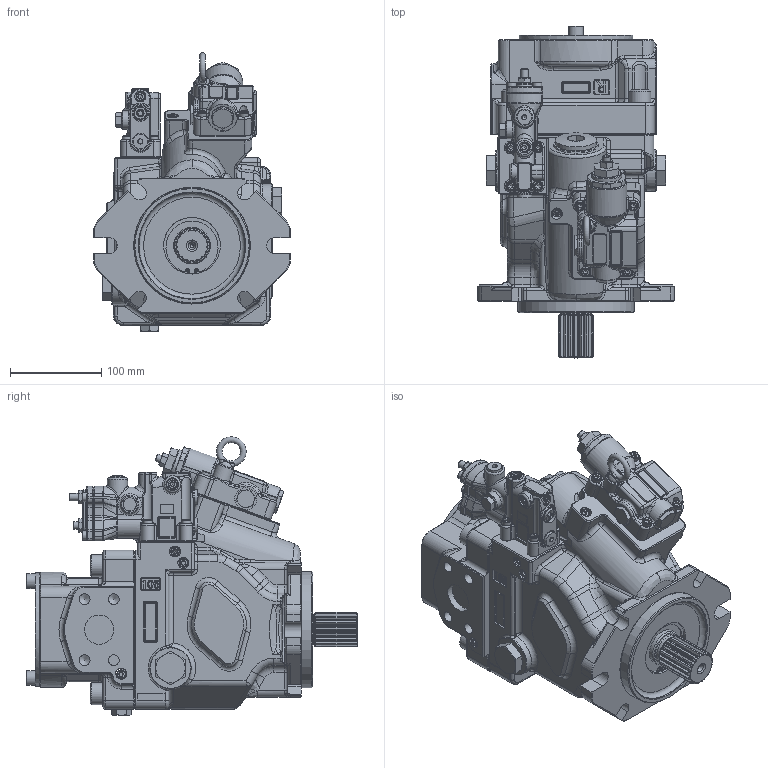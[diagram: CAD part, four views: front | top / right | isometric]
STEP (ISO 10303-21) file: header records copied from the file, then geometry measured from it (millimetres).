
FILE_DESCRIPTION(/* description */ (''),/* implementation_level */ '2;1');
FILE_NAME(/* name */ 'K3VLS105-1NRCCH-L1ABH2.stp',/* time_stamp */ '2025-10-07T14:17:54+01:00',/* author */ ('jhatcher'),/* organization */ (''),/* preprocessor_version */ 'ST-DEVELOPER v20',/* originating_system */ 'Autodesk Inventor 2024',/* authorisation */ '');
FILE_SCHEMA (('AUTOMOTIVE_DESIGN { 1 0 10303 214 3 1 1 }'));
Products named in the file (1): K3VLS105-1NRCCH-L1ABH2
Bounding box: 215 x 363 x 304.53 mm (x, y, z)
Volume: 8094257.8 mm3; surface area: 375561.1 mm2
Topology: 1 solids, 1 shells, 3469 faces, 8785 edges, 5383 vertices
Faces by surface type: plane 1419, cylinder 850, bspline 589, cone 398, torus 188, sphere 25
Full cylindrical faces by diameter (mm): 2.5 x2, 4 x4, 8 x3, 9.144 x4, 9.4 x10, 9.738 x1, 10 x12, 10.106 x4, 11 x12, 11.835 x4, 12 x10, 16 x5, 18 x4, 20 x1, 21 x1, 22 x1, 24 x6, 25 x1, 26 x4, 32 x1, 32.5 x1, 33 x1, 40 x1, 45 x1, 62 x1, 64 x1, 65 x1, 116 x1, 124 x1, 127 x1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
Entity records: 125867 total; most frequent: CARTESIAN_POINT 46678, ORIENTED_EDGE 17338, DIRECTION 15277, EDGE_CURVE 8669, AXIS2_PLACEMENT_3D 5535, VERTEX_POINT 5383, LINE 4207, VECTOR 4207
